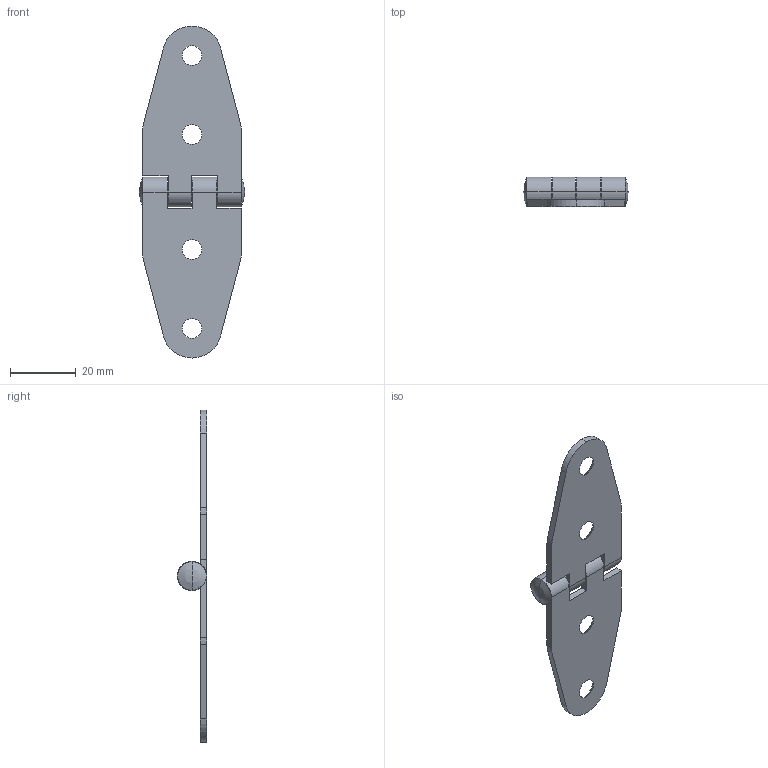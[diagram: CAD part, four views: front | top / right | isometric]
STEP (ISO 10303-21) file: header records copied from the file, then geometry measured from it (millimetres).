
FILE_DESCRIPTION(('STEP AP203'),'1');
FILE_NAME(' ',' ',('TraceParts'),('TraceParts S.A.'),'XStep 1.0',' ',' ');
FILE_SCHEMA(('CONFIG_CONTROL_DESIGN'));
Length unit declared in the file: millimetre
Products named in the file (2): 1; 2
Bounding box: 32 x 9 x 101 mm (x, y, z)
Volume: 6015.2 mm3; surface area: 6801.4 mm2
Topology: 2 solids, 2 shells, 71 faces, 212 edges, 139 vertices
Faces by surface type: cylinder 30, plane 29, cone 8, sphere 4
Entity records: 2563 total; most frequent: CARTESIAN_POINT 474, DIRECTION 447, ORIENTED_EDGE 416, EDGE_CURVE 208, AXIS2_PLACEMENT_3D 170, VERTEX_POINT 139, LINE 107, VECTOR 107
